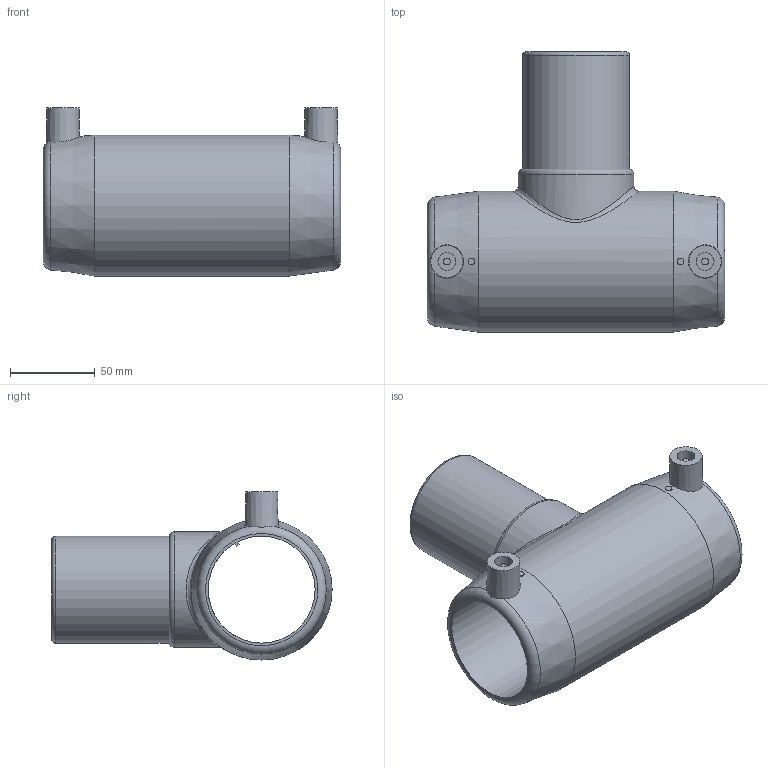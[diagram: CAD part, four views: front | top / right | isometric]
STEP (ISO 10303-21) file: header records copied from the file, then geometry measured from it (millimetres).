
FILE_DESCRIPTION(/* description */ ('Unknown'),/* implementation_level */ '2;1');
FILE_NAME(/* name */ 'TEP063C',/* time_stamp */ '2021-04-02T10:09:36+02:00',/* author */ ('Unknown'),/* organization */ ('Unknown'),/* preprocessor_version */ 'ST-DEVELOPER v16.7',/* originating_system */ 'Solid Edge',/* authorisation */ 'Unknown');
FILE_SCHEMA (('AUTOMOTIVE_DESIGN {1 0 10303 214 3 1 1}'));
Length unit declared in the file: millimetre
Products named in the file (1): TEP063C
Bounding box: 175 x 165 x 99 mm (x, y, z)
Volume: 456739.9 mm3; surface area: 113774.3 mm2
Topology: 1 solids, 1 shells, 36 faces, 77 edges, 50 vertices
Faces by surface type: plane 16, cylinder 11, torus 4, cone 4, bspline 1
Full cylindrical faces by diameter (mm): 4 x4, 10.5 x2, 51.4 x1, 63 x2, 68 x1, 83 x1
Entity records: 1187 total; most frequent: CARTESIAN_POINT 513, DIRECTION 136, ORIENTED_EDGE 92, EDGE_LOOP 68, FACE_BOUND 68, AXIS2_PLACEMENT_3D 63, EDGE_CURVE 46, VERTEX_POINT 40
